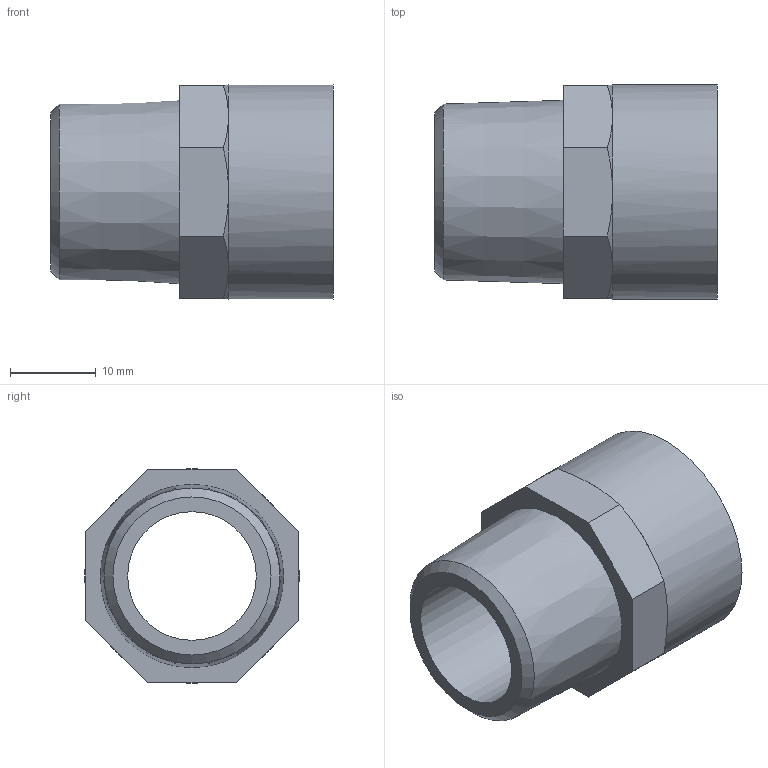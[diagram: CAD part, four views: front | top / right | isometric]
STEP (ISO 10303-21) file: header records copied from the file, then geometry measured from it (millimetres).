
FILE_DESCRIPTION((''),'2;1');
FILE_NAME('\\Lg50001\Groups\SANHA Legnica\Engineering\Public\RYSUNKI\SANHA POLSKA\4243G\step\14243_22-12(2).stp','2008-08-25T13:23:17',('pajchrowski'),(''),'Autodesk Inventor 2008','Autodesk Inventor 2008','');
FILE_SCHEMA(('AUTOMOTIVE_DESIGN { 1 0 10303 214 1 1 1 1 }'));
Length unit declared in the file: millimetre
Products named in the file (1): 14243_22-12(2)
Bounding box: 33 x 25 x 25 mm (x, y, z)
Volume: 4873.2 mm3; surface area: 4875.9 mm2
Topology: 1 solids, 1 shells, 34 faces, 72 edges, 42 vertices
Faces by surface type: plane 20, cone 11, cylinder 3
Full cylindrical faces by diameter (mm): 15 x1, 22.13 x1, 25 x1
Entity records: 872 total; most frequent: CARTESIAN_POINT 173, DIRECTION 144, ORIENTED_EDGE 130, EDGE_CURVE 65, AXIS2_PLACEMENT_3D 60, EDGE_LOOP 44, VERTEX_POINT 41, FACE_OUTER_BOUND 34
